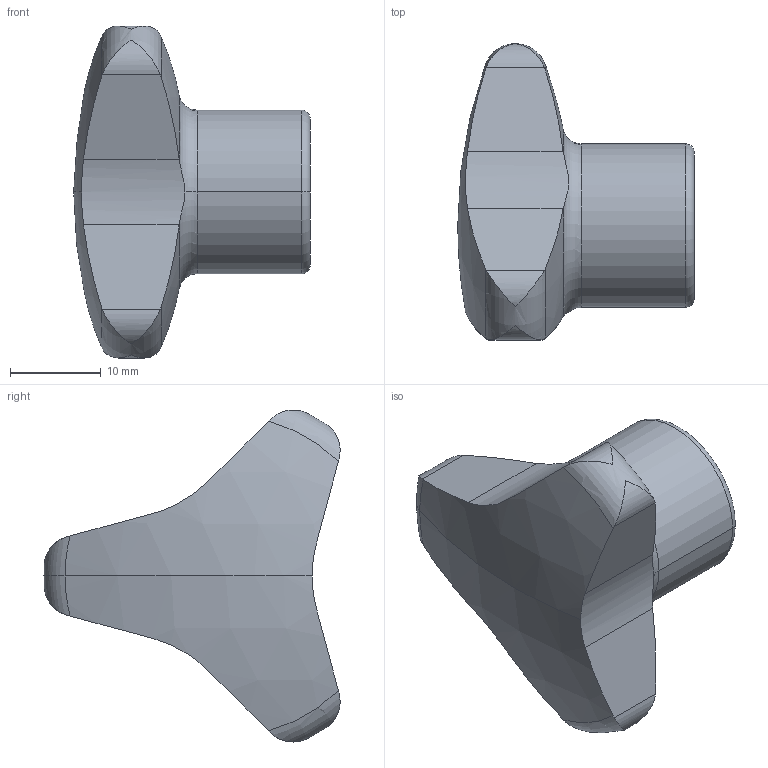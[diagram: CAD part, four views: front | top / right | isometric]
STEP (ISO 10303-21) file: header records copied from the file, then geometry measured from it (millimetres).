
FILE_DESCRIPTION (( 'STEP AP214' ), '1' );
FILE_NAME ('5345-40-M6-E.step', '2019-06-13T08:48:43', ( 'user' ), ( '' ), 'SwSTEP 2.0', 'SolidWorks 2019', '' );
FILE_SCHEMA (( 'AUTOMOTIVE_DESIGN' ));
Length unit declared in the file: millimetre
Products named in the file (1): 5345-40-M6-E
Bounding box: 26 x 32.56 x 36.49 mm (x, y, z)
Volume: 9521.8 mm3; surface area: 3201.1 mm2
Topology: 1 solids, 1 shells, 40 faces, 109 edges, 71 vertices
Faces by surface type: cylinder 16, torus 8, plane 8, sphere 6, cone 2
Entity records: 1547 total; most frequent: CARTESIAN_POINT 521, ORIENTED_EDGE 214, DIRECTION 195, EDGE_CURVE 107, AXIS2_PLACEMENT_3D 87, VERTEX_POINT 71, CIRCLE 46, EDGE_LOOP 42
